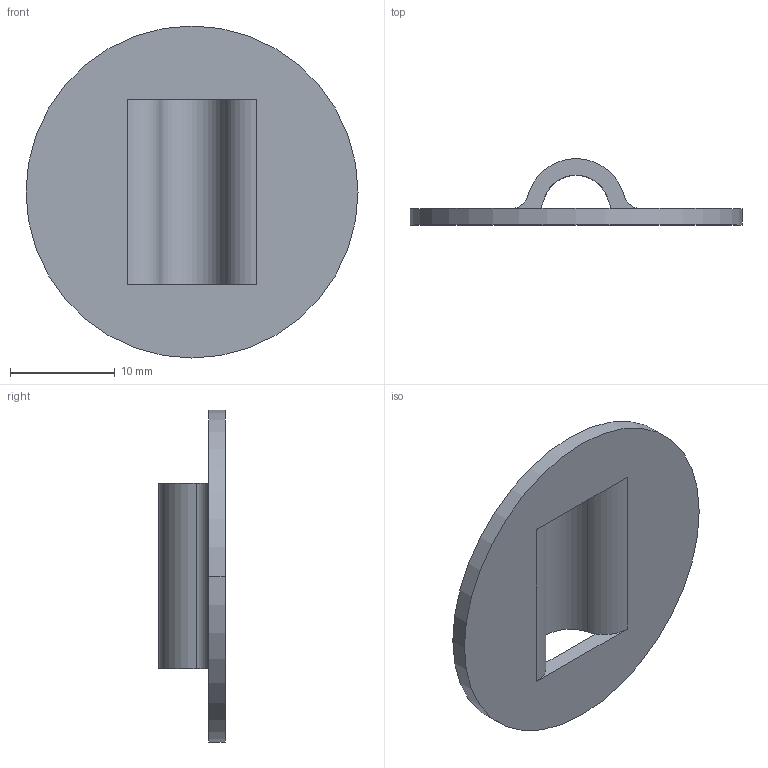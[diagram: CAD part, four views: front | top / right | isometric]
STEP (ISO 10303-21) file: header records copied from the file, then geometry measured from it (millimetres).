
FILE_DESCRIPTION (( 'STEP AP203' ), '1' );
FILE_NAME ('517651-30.STEP', '2024-11-14T17:36:42', ( '' ), ( '' ), 'SwSTEP 2.0', 'SolidWorks 2024', '' );
FILE_SCHEMA (( 'CONFIG_CONTROL_DESIGN' ));
Length unit declared in the file: inch
Products named in the file (1): 517651-30
Bounding box: 31.75 x 6.34 x 31.75 mm (x, y, z)
Volume: 1371.2 mm3; surface area: 1965.6 mm2
Topology: 1 solids, 1 shells, 14 faces, 38 edges, 24 vertices
Faces by surface type: cylinder 8, plane 6
Entity records: 537 total; most frequent: DIRECTION 88, CARTESIAN_POINT 77, ORIENTED_EDGE 76, EDGE_CURVE 38, AXIS2_PLACEMENT_3D 35, VERTEX_POINT 24, CIRCLE 20, LINE 18
